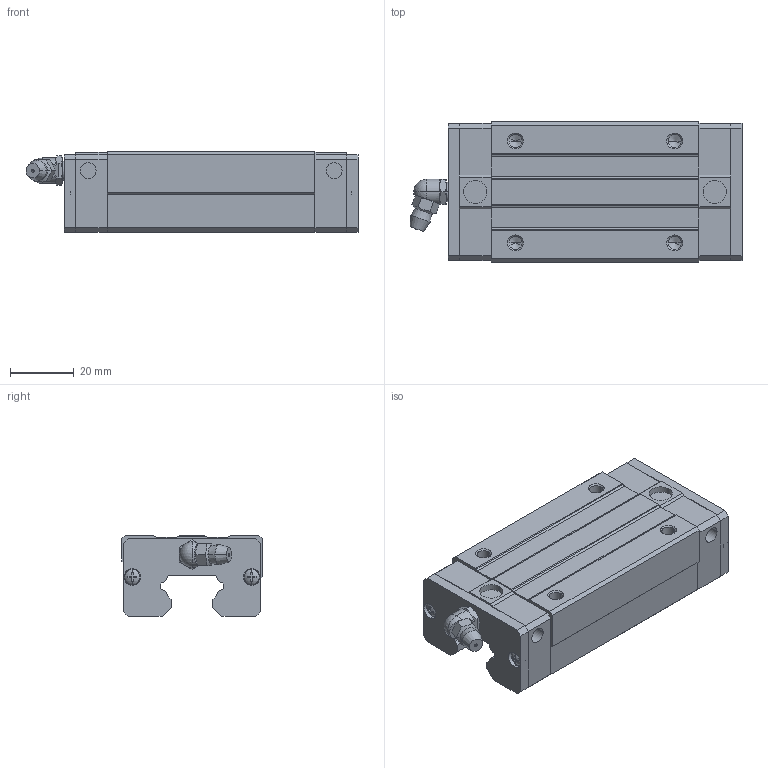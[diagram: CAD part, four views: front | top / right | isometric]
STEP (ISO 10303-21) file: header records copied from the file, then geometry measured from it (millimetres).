
FILE_DESCRIPTION(('starvars output'),'2;1');
FILE_NAME('cv20190625223145000107878.stp','22:31:45 2019/06/25',( 'Thomas Industrial Network Germany GmbH'),( 'Thomas Industrial Network Germany GmbH'),'unknown preprocess','ACIS' ,'unknown authorization');
FILE_SCHEMA(('CONFIG_CONTROL_DESIGN {UNKNOWN IMPLEMENTATION LEVEL}'));
Length unit declared in the file: millimetre
Products named in the file (10): PRODUCT_ID_2; PRODUCT_ID_3; PRODUCT_ID_4; PRODUCT_ID_5; PRODUCT_ID_6; PRODUCT_ID_7; PRODUCT_ID_8; PRODUCT_ID_9; PRODUCT_ID_10; PRODUCT_ID_11
Bounding box: 104.2 x 44 x 25.4 mm (x, y, z)
Volume: 80155.4 mm3; surface area: 25702.1 mm2
Topology: 10 solids, 10 shells, 391 faces, 990 edges, 628 vertices
Faces by surface type: plane 240, cylinder 75, cone 64, sphere 12
Entity records: 11251 total; most frequent: ORIENTED_EDGE 1956, CARTESIAN_POINT 1837, DIRECTION 1541, EDGE_CURVE 978, VERTEX_POINT 628, VECTOR 625, LINE 625, AXIS2_PLACEMENT_3D 458
